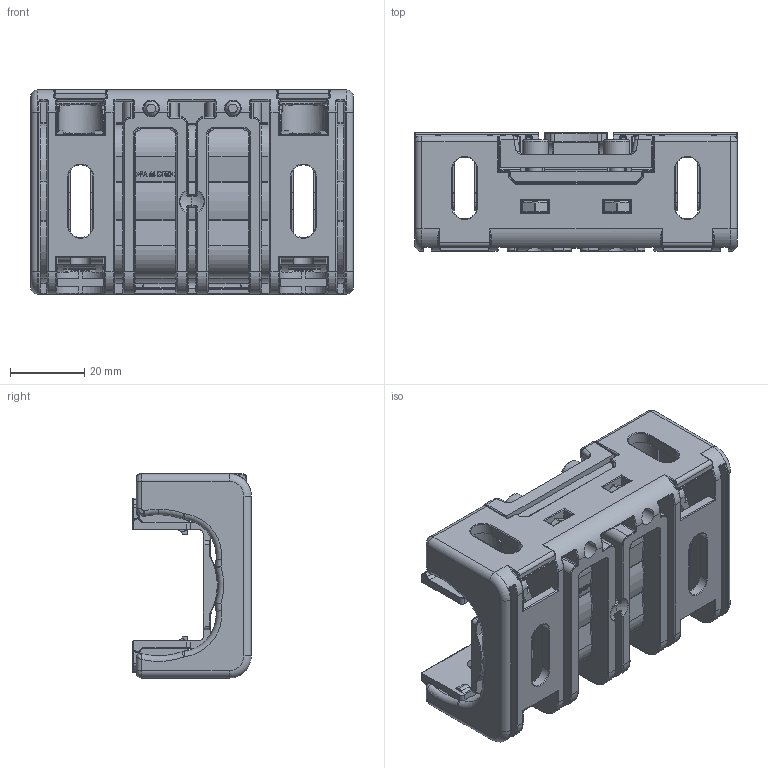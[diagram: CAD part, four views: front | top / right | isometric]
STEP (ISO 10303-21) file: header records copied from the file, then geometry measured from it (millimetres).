
FILE_DESCRIPTION((''),'2;1');
FILE_NAME('995-600_066_SIDE_MOUN_SW0001','2024-02-07T10:29:01',('SN5'),('Rockwell Automation'),'CREO PARAMETRIC BY PTC INC, 2020281','CREO PARAMETRIC BY PTC INC, 2020281','');
FILE_SCHEMA(('AUTOMOTIVE_DESIGN { 1 0 10303 214 1 1 1 1 }'));
Products named in the file (1): 995-600_066_SIDE_MOUN_SW0001
Bounding box: 87 x 31.96 x 55 mm (x, y, z)
Surface area: 44659.3 mm2 (no closed solid volume)
Topology: 0 solids, 3 shells, 3780 faces, 9883 edges, 5843 vertices
Faces by surface type: cylinder 1583, plane 1073, torus 457, bspline 280, sphere 239, extrusion 130, cone 18
Entity records: 209386 total; most frequent: CARTESIAN_POINT 61253, ORIENTED_EDGE 19266, DIRECTION 18880, PRESENTATION_STYLE_ASSIGNMENT 13548, STYLED_ITEM 9768, CURVE_STYLE 9767, EDGE_CURVE 9633, AXIS2_PLACEMENT_3D 7089
